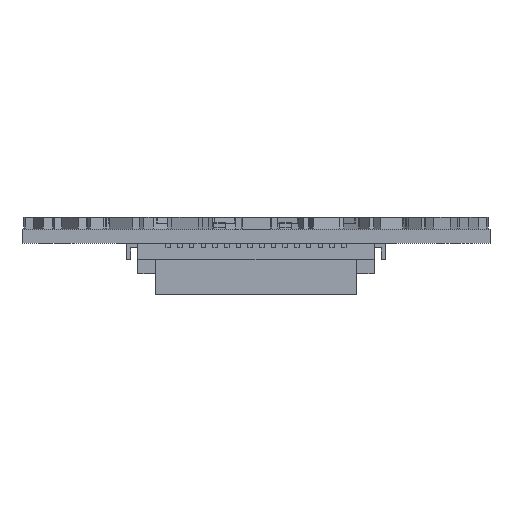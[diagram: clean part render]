
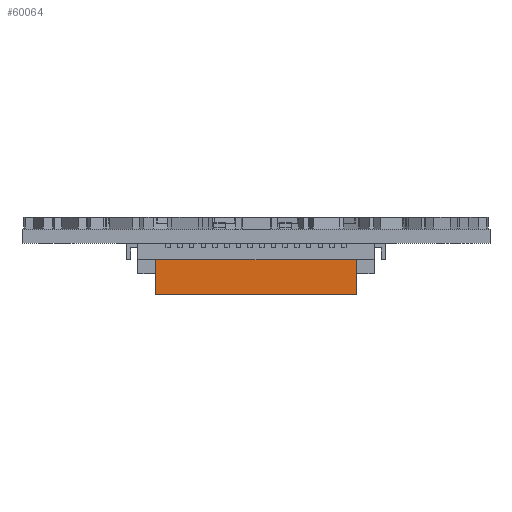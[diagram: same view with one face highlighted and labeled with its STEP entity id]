
A CAD part, front view. The second image highlights one B-rep face of the part: STEP entity #60064.
In plain terms, the highlighted planar face has unit normal (0, -1, 0).
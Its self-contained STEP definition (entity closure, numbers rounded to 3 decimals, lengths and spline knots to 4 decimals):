
#51671 = PLANE('',#51672);
#51672 = AXIS2_PLACEMENT_3D('',#51673,#51674,#51675);
#51673 = CARTESIAN_POINT('',(21.5,14.3,-0.7));
#51674 = DIRECTION('',(0.,0.,-1.));
#51675 = DIRECTION('',(1.,0.,0.));
#53756 = EDGE_CURVE('',#53757,#53759,#53761,.T.);
#53757 = VERTEX_POINT('',#53758);
#53758 = CARTESIAN_POINT('',(24.3,13.1,-0.7));
#53759 = VERTEX_POINT('',#53760);
#53760 = CARTESIAN_POINT('',(15.7,13.1,-0.7));
#53761 = SURFACE_CURVE('',#53762,(#53766,#53773),.PCURVE_S1.);
#53762 = LINE('',#53763,#53764);
#53763 = CARTESIAN_POINT('',(21.65,13.1,-0.7));
#53764 = VECTOR('',#53765,1.);
#53765 = DIRECTION('',(-1.,0.,0.));
#53766 = PCURVE('',#51671,#53767);
#53767 = DEFINITIONAL_REPRESENTATION('',(#53768),#53772);
#53768 = LINE('',#53769,#53770);
#53769 = CARTESIAN_POINT('',(0.15,1.2));
#53770 = VECTOR('',#53771,1.);
#53771 = DIRECTION('',(-1.,0.));
#53772 = ( GEOMETRIC_REPRESENTATION_CONTEXT(2) 
PARAMETRIC_REPRESENTATION_CONTEXT() REPRESENTATION_CONTEXT('2D SPACE',''
  ) );
#53773 = PCURVE('',#53774,#53779);
#53774 = PLANE('',#53775);
#53775 = AXIS2_PLACEMENT_3D('',#53776,#53777,#53778);
#53776 = CARTESIAN_POINT('',(24.3,13.1,-2.7));
#53777 = DIRECTION('',(0.,-1.,0.));
#53778 = DIRECTION('',(1.,0.,0.));
#53779 = DEFINITIONAL_REPRESENTATION('',(#53780),#53784);
#53780 = LINE('',#53781,#53782);
#53781 = CARTESIAN_POINT('',(-2.65,2.));
#53782 = VECTOR('',#53783,1.);
#53783 = DIRECTION('',(-1.,0.));
#53784 = ( GEOMETRIC_REPRESENTATION_CONTEXT(2) 
PARAMETRIC_REPRESENTATION_CONTEXT() REPRESENTATION_CONTEXT('2D SPACE',''
  ) );
#53802 = PLANE('',#53803);
#53803 = AXIS2_PLACEMENT_3D('',#53804,#53805,#53806);
#53804 = CARTESIAN_POINT('',(24.3,13.75,-2.7));
#53805 = DIRECTION('',(1.,0.,0.));
#53806 = DIRECTION('',(0.,1.,0.));
#53907 = PLANE('',#53908);
#53908 = AXIS2_PLACEMENT_3D('',#53909,#53910,#53911);
#53909 = CARTESIAN_POINT('',(15.7,14.85,-2.7));
#53910 = DIRECTION('',(-1.,0.,0.));
#53911 = DIRECTION('',(0.,-1.,0.));
#60064 = ADVANCED_FACE('',(#60065),#53774,.T.);
#60065 = FACE_BOUND('',#60066,.T.);
#60066 = EDGE_LOOP('',(#60067,#60068,#60091,#60119));
#60067 = ORIENTED_EDGE('',*,*,#53756,.T.);
#60068 = ORIENTED_EDGE('',*,*,#60069,.F.);
#60069 = EDGE_CURVE('',#60070,#53759,#60072,.T.);
#60070 = VERTEX_POINT('',#60071);
#60071 = CARTESIAN_POINT('',(15.7,13.1,-2.2));
#60072 = SURFACE_CURVE('',#60073,(#60077,#60084),.PCURVE_S1.);
#60073 = LINE('',#60074,#60075);
#60074 = CARTESIAN_POINT('',(15.7,13.1,-2.2));
#60075 = VECTOR('',#60076,1.);
#60076 = DIRECTION('',(0.,0.,1.));
#60077 = PCURVE('',#53774,#60078);
#60078 = DEFINITIONAL_REPRESENTATION('',(#60079),#60083);
#60079 = LINE('',#60080,#60081);
#60080 = CARTESIAN_POINT('',(-8.6,0.5));
#60081 = VECTOR('',#60082,1.);
#60082 = DIRECTION('',(0.,1.));
#60083 = ( GEOMETRIC_REPRESENTATION_CONTEXT(2) 
PARAMETRIC_REPRESENTATION_CONTEXT() REPRESENTATION_CONTEXT('2D SPACE',''
  ) );
#60084 = PCURVE('',#53907,#60085);
#60085 = DEFINITIONAL_REPRESENTATION('',(#60086),#60090);
#60086 = LINE('',#60087,#60088);
#60087 = CARTESIAN_POINT('',(1.75,0.5));
#60088 = VECTOR('',#60089,1.);
#60089 = DIRECTION('',(0.,1.));
#60090 = ( GEOMETRIC_REPRESENTATION_CONTEXT(2) 
PARAMETRIC_REPRESENTATION_CONTEXT() REPRESENTATION_CONTEXT('2D SPACE',''
  ) );
#60091 = ORIENTED_EDGE('',*,*,#60092,.F.);
#60092 = EDGE_CURVE('',#60093,#60070,#60095,.T.);
#60093 = VERTEX_POINT('',#60094);
#60094 = CARTESIAN_POINT('',(24.3,13.1,-2.2));
#60095 = SURFACE_CURVE('',#60096,(#60100,#60107),.PCURVE_S1.);
#60096 = LINE('',#60097,#60098);
#60097 = CARTESIAN_POINT('',(22.975,13.1,-2.2));
#60098 = VECTOR('',#60099,1.);
#60099 = DIRECTION('',(-1.,0.,0.));
#60100 = PCURVE('',#53774,#60101);
#60101 = DEFINITIONAL_REPRESENTATION('',(#60102),#60106);
#60102 = LINE('',#60103,#60104);
#60103 = CARTESIAN_POINT('',(-1.325,0.5));
#60104 = VECTOR('',#60105,1.);
#60105 = DIRECTION('',(-1.,0.));
#60106 = ( GEOMETRIC_REPRESENTATION_CONTEXT(2) 
PARAMETRIC_REPRESENTATION_CONTEXT() REPRESENTATION_CONTEXT('2D SPACE',''
  ) );
#60107 = PCURVE('',#60108,#60113);
#60108 = PLANE('',#60109);
#60109 = AXIS2_PLACEMENT_3D('',#60110,#60111,#60112);
#60110 = CARTESIAN_POINT('',(21.65,15.8,-2.2));
#60111 = DIRECTION('',(0.,0.,-1.));
#60112 = DIRECTION('',(1.,0.,0.));
#60113 = DEFINITIONAL_REPRESENTATION('',(#60114),#60118);
#60114 = LINE('',#60115,#60116);
#60115 = CARTESIAN_POINT('',(1.325,2.7));
#60116 = VECTOR('',#60117,1.);
#60117 = DIRECTION('',(-1.,0.));
#60118 = ( GEOMETRIC_REPRESENTATION_CONTEXT(2) 
PARAMETRIC_REPRESENTATION_CONTEXT() REPRESENTATION_CONTEXT('2D SPACE',''
  ) );
#60119 = ORIENTED_EDGE('',*,*,#60120,.T.);
#60120 = EDGE_CURVE('',#60093,#53757,#60121,.T.);
#60121 = SURFACE_CURVE('',#60122,(#60126,#60133),.PCURVE_S1.);
#60122 = LINE('',#60123,#60124);
#60123 = CARTESIAN_POINT('',(24.3,13.1,-2.2));
#60124 = VECTOR('',#60125,1.);
#60125 = DIRECTION('',(0.,0.,1.));
#60126 = PCURVE('',#53774,#60127);
#60127 = DEFINITIONAL_REPRESENTATION('',(#60128),#60132);
#60128 = LINE('',#60129,#60130);
#60129 = CARTESIAN_POINT('',(0.,0.5));
#60130 = VECTOR('',#60131,1.);
#60131 = DIRECTION('',(0.,1.));
#60132 = ( GEOMETRIC_REPRESENTATION_CONTEXT(2) 
PARAMETRIC_REPRESENTATION_CONTEXT() REPRESENTATION_CONTEXT('2D SPACE',''
  ) );
#60133 = PCURVE('',#53802,#60134);
#60134 = DEFINITIONAL_REPRESENTATION('',(#60135),#60139);
#60135 = LINE('',#60136,#60137);
#60136 = CARTESIAN_POINT('',(-0.65,0.5));
#60137 = VECTOR('',#60138,1.);
#60138 = DIRECTION('',(0.,1.));
#60139 = ( GEOMETRIC_REPRESENTATION_CONTEXT(2) 
PARAMETRIC_REPRESENTATION_CONTEXT() REPRESENTATION_CONTEXT('2D SPACE',''
  ) );
